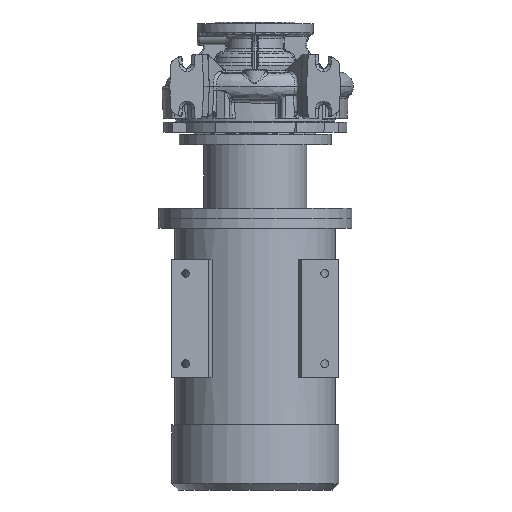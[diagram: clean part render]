
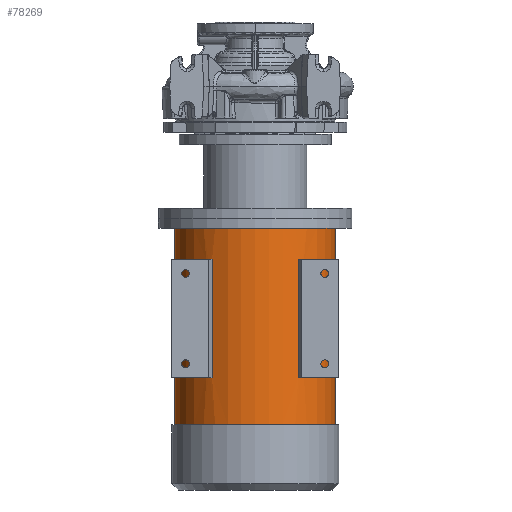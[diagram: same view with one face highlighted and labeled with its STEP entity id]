
A CAD part, front view. The second image highlights one B-rep face of the part: STEP entity #78269.
In plain terms, the highlighted cylindrical face has radius 124.5 mm (diameter 249 mm), a partial arc.
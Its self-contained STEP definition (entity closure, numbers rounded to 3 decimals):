
#144 = CIRCLE ( 'NONE', #75915, 124.5 ) ;
#987 = EDGE_CURVE ( 'NONE', #5374, #65027, #12364, .T. ) ;
#2180 = ORIENTED_EDGE ( 'NONE', *, *, #83006, .T. ) ;
#2685 = CARTESIAN_POINT ( 'NONE',  ( 0., 0., -452.3 ) ) ;
#2805 = CARTESIAN_POINT ( 'NONE',  ( 66.829, -105.044, -626.3 ) ) ;
#4162 = CARTESIAN_POINT ( 'NONE',  ( -75.873, -98.709, -268.3 ) ) ;
#4172 = ORIENTED_EDGE ( 'NONE', *, *, #52058, .T. ) ;
#5374 = VERTEX_POINT ( 'NONE', #73048 ) ;
#5878 = CARTESIAN_POINT ( 'NONE',  ( 0., 0., -268.3 ) ) ;
#5957 = ORIENTED_EDGE ( 'NONE', *, *, #20646, .T. ) ;
#6819 = ORIENTED_EDGE ( 'NONE', *, *, #75381, .T. ) ;
#7154 = CARTESIAN_POINT ( 'NONE',  ( -66.829, -105.044, -626.3 ) ) ;
#7771 = CARTESIAN_POINT ( 'NONE',  ( 0., 0., -525.3 ) ) ;
#7961 = ORIENTED_EDGE ( 'NONE', *, *, #76649, .F. ) ;
#9650 = ORIENTED_EDGE ( 'NONE', *, *, #47806, .F. ) ;
#12087 = AXIS2_PLACEMENT_3D ( 'NONE', #35714, #70457, #76240 ) ;
#12364 = CIRCLE ( 'NONE', #73511, 124.5 ) ;
#12703 = DIRECTION ( 'NONE',  ( 0., 0., 1. ) ) ;
#13243 = ORIENTED_EDGE ( 'NONE', *, *, #39765, .T. ) ;
#16558 = VERTEX_POINT ( 'NONE', #20554 ) ;
#17815 = CARTESIAN_POINT ( 'NONE',  ( -75.873, -98.709, -452.3 ) ) ;
#18567 = CARTESIAN_POINT ( 'NONE',  ( 0., 0., -220.3 ) ) ;
#19176 = EDGE_LOOP ( 'NONE', ( #9650, #13243, #5957, #84534 ) ) ;
#19454 = AXIS2_PLACEMENT_3D ( 'NONE', #5878, #47545, #34852 ) ;
#20134 = DIRECTION ( 'NONE',  ( 0., 0., 1. ) ) ;
#20471 = VECTOR ( 'NONE', #50823, 1000. ) ;
#20554 = CARTESIAN_POINT ( 'NONE',  ( -124.5, 0., -220.3 ) ) ;
#20646 = EDGE_CURVE ( 'NONE', #16558, #65027, #71798, .T. ) ;
#21615 = CARTESIAN_POINT ( 'NONE',  ( -75.873, -98.709, -626.3 ) ) ;
#21870 = EDGE_LOOP ( 'NONE', ( #86130, #2180, #22618, #7961 ) ) ;
#22618 = ORIENTED_EDGE ( 'NONE', *, *, #80031, .F. ) ;
#23848 = CIRCLE ( 'NONE', #12087, 124.5 ) ;
#25357 = CYLINDRICAL_SURFACE ( 'NONE', #37606, 124.5 ) ;
#26510 = EDGE_CURVE ( 'NONE', #63927, #77269, #57220, .T. ) ;
#26520 = FACE_BOUND ( 'NONE', #82645, .T. ) ;
#26564 = CARTESIAN_POINT ( 'NONE',  ( -66.829, -105.044, -452.3 ) ) ;
#27478 = CARTESIAN_POINT ( 'NONE',  ( -124.5, 0., -525.3 ) ) ;
#28376 = VECTOR ( 'NONE', #79783, 1000. ) ;
#30889 = VERTEX_POINT ( 'NONE', #81221 ) ;
#32054 = VERTEX_POINT ( 'NONE', #40795 ) ;
#34426 = CIRCLE ( 'NONE', #19454, 124.5 ) ;
#34852 = DIRECTION ( 'NONE',  ( -1., 0., 0. ) ) ;
#35714 = CARTESIAN_POINT ( 'NONE',  ( 0., 0., -268.3 ) ) ;
#37606 = AXIS2_PLACEMENT_3D ( 'NONE', #37630, #72666, #45177 ) ;
#37630 = CARTESIAN_POINT ( 'NONE',  ( 0., 0., -626.3 ) ) ;
#39281 = VERTEX_POINT ( 'NONE', #50090 ) ;
#39765 = EDGE_CURVE ( 'NONE', #39281, #16558, #144, .T. ) ;
#40795 = CARTESIAN_POINT ( 'NONE',  ( 75.873, -98.709, -268.3 ) ) ;
#43269 = CARTESIAN_POINT ( 'NONE',  ( 66.829, -105.044, -452.3 ) ) ;
#44387 = DIRECTION ( 'NONE',  ( 0., 0., -1. ) ) ;
#45177 = DIRECTION ( 'NONE',  ( -1., 0., 0. ) ) ;
#47495 = CARTESIAN_POINT ( 'NONE',  ( -124.5, 0., -626.3 ) ) ;
#47545 = DIRECTION ( 'NONE',  ( 0., 0., 1. ) ) ;
#47806 = EDGE_CURVE ( 'NONE', #39281, #5374, #57513, .T. ) ;
#49191 = DIRECTION ( 'NONE',  ( 1., 0., 0. ) ) ;
#50090 = CARTESIAN_POINT ( 'NONE',  ( 124.5, 0., -220.3 ) ) ;
#50823 = DIRECTION ( 'NONE',  ( 0., 0., 1. ) ) ;
#52058 = EDGE_CURVE ( 'NONE', #32054, #69488, #89282, .T. ) ;
#52401 = FACE_BOUND ( 'NONE', #21870, .T. ) ;
#52969 = VERTEX_POINT ( 'NONE', #26564 ) ;
#53870 = CIRCLE ( 'NONE', #59912, 124.5 ) ;
#54205 = VERTEX_POINT ( 'NONE', #4162 ) ;
#54905 = CIRCLE ( 'NONE', #66826, 124.5 ) ;
#57220 = LINE ( 'NONE', #2805, #20471 ) ;
#57513 = LINE ( 'NONE', #86338, #28376 ) ;
#58430 = CARTESIAN_POINT ( 'NONE',  ( 75.873, -98.709, -452.3 ) ) ;
#58555 = VERTEX_POINT ( 'NONE', #17815 ) ;
#59912 = AXIS2_PLACEMENT_3D ( 'NONE', #2685, #44387, #49191 ) ;
#63927 = VERTEX_POINT ( 'NONE', #43269 ) ;
#64203 = DIRECTION ( 'NONE',  ( 0., 0., -1. ) ) ;
#65027 = VERTEX_POINT ( 'NONE', #27478 ) ;
#66826 = AXIS2_PLACEMENT_3D ( 'NONE', #75228, #12703, #88422 ) ;
#69488 = VERTEX_POINT ( 'NONE', #58430 ) ;
#70058 = VECTOR ( 'NONE', #83841, 1000. ) ;
#70457 = DIRECTION ( 'NONE',  ( 0., 0., -1. ) ) ;
#71798 = LINE ( 'NONE', #47495, #84768 ) ;
#72666 = DIRECTION ( 'NONE',  ( 0., 0., -1. ) ) ;
#73048 = CARTESIAN_POINT ( 'NONE',  ( 124.5, 0., -525.3 ) ) ;
#73511 = AXIS2_PLACEMENT_3D ( 'NONE', #7771, #64203, #77292 ) ;
#74241 = CARTESIAN_POINT ( 'NONE',  ( 75.873, -98.709, -626.3 ) ) ;
#75228 = CARTESIAN_POINT ( 'NONE',  ( 0., 0., -452.3 ) ) ;
#75381 = EDGE_CURVE ( 'NONE', #77269, #32054, #34426, .T. ) ;
#75915 = AXIS2_PLACEMENT_3D ( 'NONE', #18567, #81990, #88573 ) ;
#76240 = DIRECTION ( 'NONE',  ( 1., 0., 0. ) ) ;
#76539 = VECTOR ( 'NONE', #20134, 1000. ) ;
#76649 = EDGE_CURVE ( 'NONE', #30889, #54205, #23848, .T. ) ;
#76904 = ORIENTED_EDGE ( 'NONE', *, *, #26510, .T. ) ;
#77269 = VERTEX_POINT ( 'NONE', #84233 ) ;
#77292 = DIRECTION ( 'NONE',  ( -1., 0., 0. ) ) ;
#78269 = ADVANCED_FACE ( 'NONE', ( #82687, #26520, #52401 ), #25357, .T. ) ;
#79783 = DIRECTION ( 'NONE',  ( 0., 0., -1. ) ) ;
#80031 = EDGE_CURVE ( 'NONE', #54205, #58555, #83011, .T. ) ;
#81221 = CARTESIAN_POINT ( 'NONE',  ( -66.829, -105.044, -268.3 ) ) ;
#81505 = ORIENTED_EDGE ( 'NONE', *, *, #82763, .F. ) ;
#81828 = LINE ( 'NONE', #7154, #76539 ) ;
#81990 = DIRECTION ( 'NONE',  ( 0., 0., -1. ) ) ;
#82645 = EDGE_LOOP ( 'NONE', ( #81505, #76904, #6819, #4172 ) ) ;
#82687 = FACE_OUTER_BOUND ( 'NONE', #19176, .T. ) ;
#82763 = EDGE_CURVE ( 'NONE', #63927, #69488, #54905, .T. ) ;
#83006 = EDGE_CURVE ( 'NONE', #52969, #58555, #53870, .T. ) ;
#83011 = LINE ( 'NONE', #21615, #70058 ) ;
#83841 = DIRECTION ( 'NONE',  ( 0., 0., -1. ) ) ;
#84233 = CARTESIAN_POINT ( 'NONE',  ( 66.829, -105.044, -268.3 ) ) ;
#84534 = ORIENTED_EDGE ( 'NONE', *, *, #987, .F. ) ;
#84768 = VECTOR ( 'NONE', #88501, 1000. ) ;
#86130 = ORIENTED_EDGE ( 'NONE', *, *, #87680, .F. ) ;
#86338 = CARTESIAN_POINT ( 'NONE',  ( 124.5, 0., -626.3 ) ) ;
#87155 = VECTOR ( 'NONE', #88042, 1000. ) ;
#87680 = EDGE_CURVE ( 'NONE', #52969, #30889, #81828, .T. ) ;
#88042 = DIRECTION ( 'NONE',  ( 0., 0., -1. ) ) ;
#88422 = DIRECTION ( 'NONE',  ( -1., 0., 0. ) ) ;
#88501 = DIRECTION ( 'NONE',  ( 0., 0., -1. ) ) ;
#88573 = DIRECTION ( 'NONE',  ( -1., 0., 0. ) ) ;
#89282 = LINE ( 'NONE', #74241, #87155 ) ;
